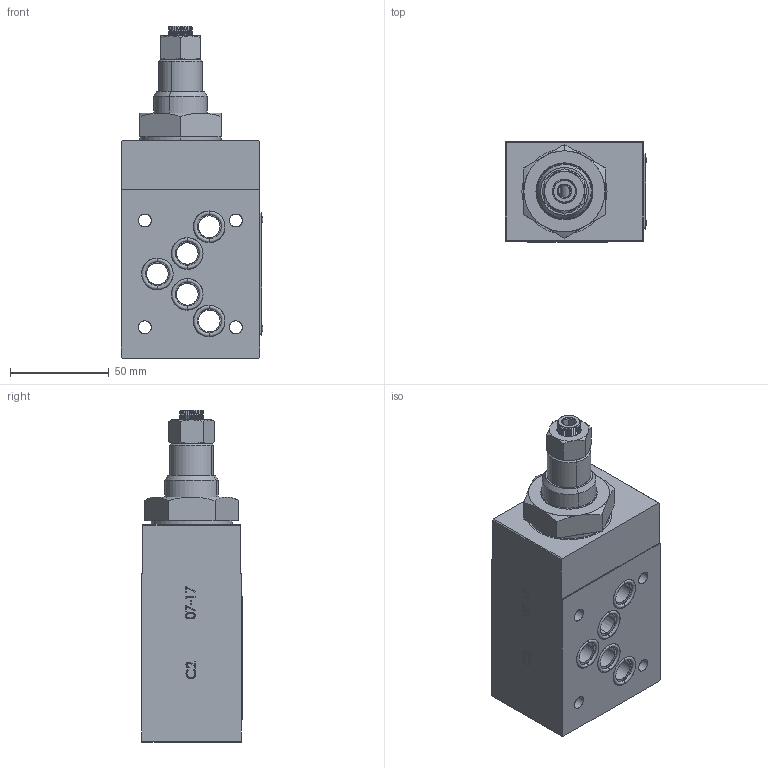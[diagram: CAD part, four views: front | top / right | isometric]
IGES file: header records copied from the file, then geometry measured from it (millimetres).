
Start section: SolidWorks IGES file using analytic representation for surfaces
Global section: file name: C:\Users\pc-te25\Desktop\358-5-A-05.IGS; native system: SolidWorks 2018; preprocessor: SolidWorks 2018; author: pc-te25; date: 191204.094757; units: millimetre
Bounding box: 71.66 x 50.58 x 167.8 mm (x, y, z)
Surface area: 54623.6 mm2 (no closed solid volume)
Topology: 0 solids, 0 shells, 631 faces, 12418 edges, 12418 vertices
Faces by surface type: bspline 461, revolution 170
